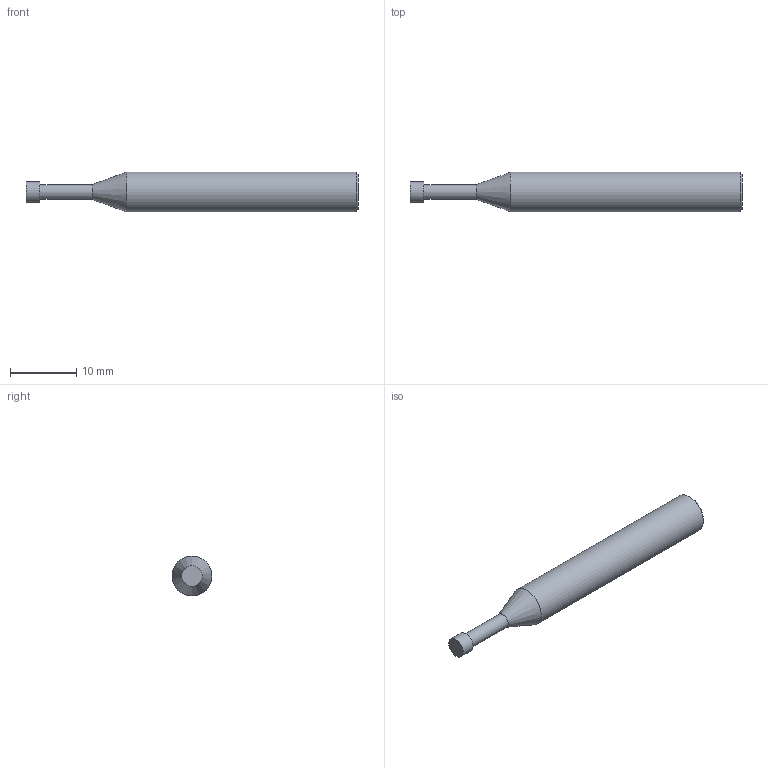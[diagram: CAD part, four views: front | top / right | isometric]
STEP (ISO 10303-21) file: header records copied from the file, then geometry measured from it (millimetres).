
FILE_DESCRIPTION(/* description */ (''),/* implementation_level */ '2;1');
FILE_NAME(/* name */ 'HSXDT-0.7-10 0650.stp',/* time_stamp */ '2026-02-24T08:36:48+08:00',/* author */ (''),/* organization */ (''),/* preprocessor_version */ 'ST-DEVELOPER v16',/* originating_system */ 'SIEMENS PLM Software NX 10.0',/* authorisation */ '');
FILE_SCHEMA (('CONFIG_CONTROL_DESIGN'));
Length unit declared in the file: millimetre
Products named in the file (1): HSXDT-0.7-10 0650_dxf
Bounding box: 50 x 6 x 6 mm (x, y, z)
Volume: 1105.3 mm3; surface area: 840.2 mm2
Topology: 1 solids, 1 shells, 8 faces, 12 edges, 7 vertices
Faces by surface type: plane 3, cylinder 3, cone 2
Full cylindrical faces by diameter (mm): 2.25 x1, 3.1 x1, 6 x1
Entity records: 238 total; most frequent: DIRECTION 32, CARTESIAN_POINT 23, AXIS2_PLACEMENT_3D 16, EDGE_LOOP 14, ORIENTED_EDGE 14, FACE_BOUND 12, ADVANCED_FACE 8, PERSON_AND_ORGANIZATION 7
